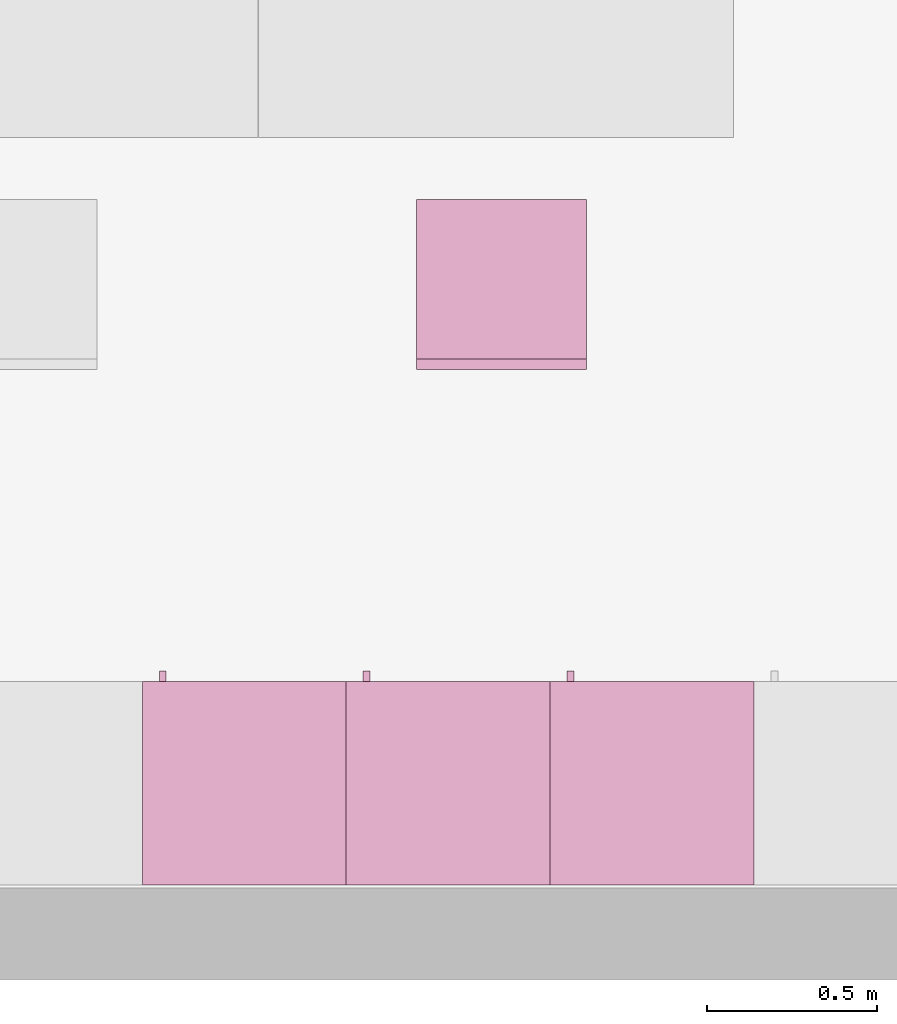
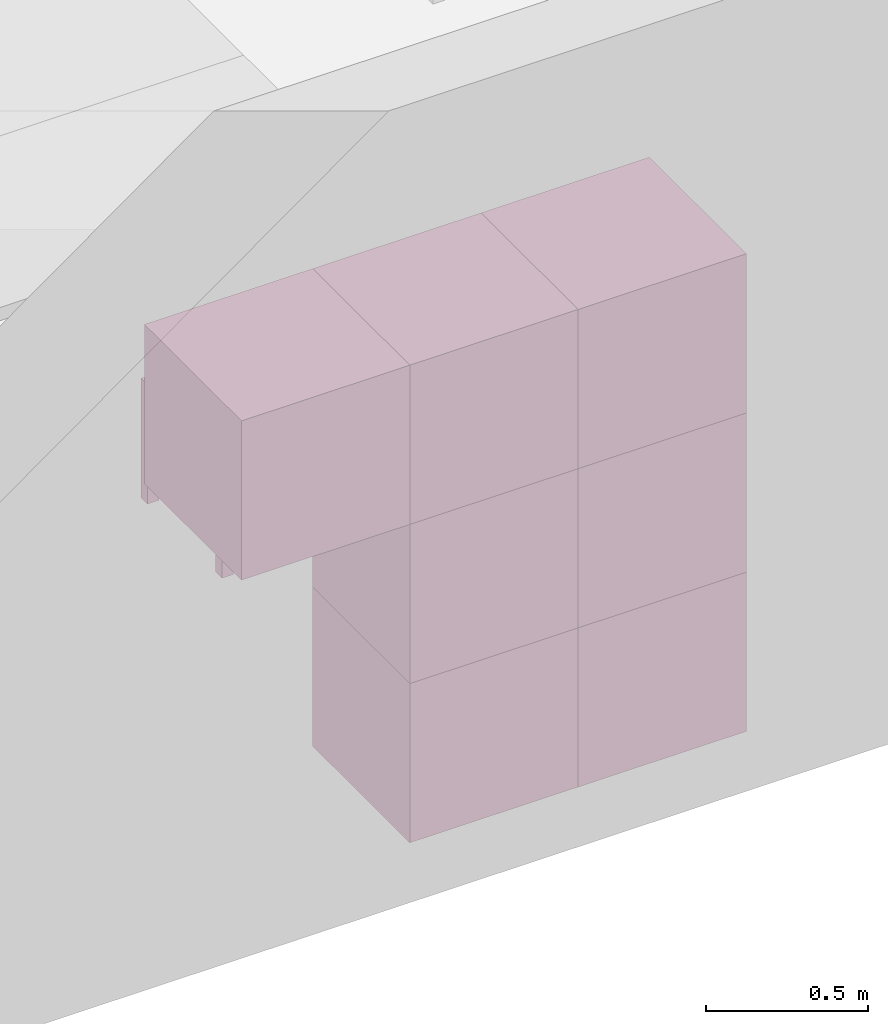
"""IFC4 building model written with IfcOpenShell, lengths in metres."""

import ifcopenshell
import ifcopenshell.guid

model = None  # the IFC model being written
_history = None  # IfcOwnerHistory: only IFC2X3 demands one
_inside = {}  # id of a spatial element -> (the spatial element, [elements in it])
_under = {}  # id of a project, library or spatial element -> (it, [spatial elements below it])
_declared = {}  # id of a project -> (the project, [libraries it declares])
_typed = {}  # id of a type object -> (the type object, [elements of that type])
_made_of = {}  # id of a material, layer set ... -> (it, [elements and type objects made of it])


def new_model(schema):
    """Start an empty IFC model of exactly this schema.

    Asked for "IFC4X3", IfcOpenShell would pick the latest addendum, in which some entities
    have other attributes; the version numbers below select the first issue.
    IFC2X3 requires an IfcOwnerHistory on every rooted entity: one is made here for all.
    """
    global model, _history
    if schema == "IFC4X3":
        model = ifcopenshell.file(schema_version=(4, 3, 0, 0))
    else:
        model = ifcopenshell.file(schema=schema)
    _inside.clear()
    _under.clear()
    _declared.clear()
    _typed.clear()
    _made_of.clear()
    _history = None
    if model.schema == "IFC2X3":
        org = make("IfcOrganization", Name="unknown")
        user = make(
            "IfcPersonAndOrganization",
            ThePerson=make("IfcPerson", FamilyName="unknown"),
            TheOrganization=org,
        )
        app = make(
            "IfcApplication",
            ApplicationDeveloper=org,
            Version="unknown",
            ApplicationFullName="unknown",
            ApplicationIdentifier="unknown",
        )
        _history = make(
            "IfcOwnerHistory",
            OwningUser=user,
            OwningApplication=app,
            ChangeAction="ADDED",
            CreationDate=0,
        )
    return model


def make(cls, **values):
    """One entity of the class cls with the attributes given. An attribute that is None is left unset."""
    return model.create_entity(
        cls, **{name: value for name, value in values.items() if value is not None}
    )


def entity(cls, *values):
    """Any entity or typed value of the class cls, its attributes in the order of the schema. None: left unset."""
    e = model.create_entity(cls)
    for i, value in enumerate(values):
        if value is not None:
            e[i] = value
    return e


def rooted(cls, **values):
    """An entity with a GlobalId (a new one), such as an element, a storey or a relation."""
    return make(cls, GlobalId=ifcopenshell.guid.new(), OwnerHistory=_history, **values)


def si_unit(unit_type, name, prefix=None):
    """IfcSIUnit, for example si_unit("LENGTHUNIT", "METRE", prefix="MILLI")."""
    return make("IfcSIUnit", UnitType=unit_type, Prefix=prefix, Name=name)


def converted_unit(unit_type, name, factor, base, dimensions=None, offset=None):
    """IfcConversionBasedUnit, such as the inch: factor (a typed value) times the base unit."""
    return make(
        "IfcConversionBasedUnit"
        if offset is None
        else "IfcConversionBasedUnitWithOffset",
        ConversionOffset=offset,
        Dimensions=None
        if dimensions is None
        else entity("IfcDimensionalExponents", *dimensions),
        UnitType=unit_type,
        Name=name,
        ConversionFactor=make(
            "IfcMeasureWithUnit", ValueComponent=factor, UnitComponent=base
        ),
    )


def derived_unit(unit_type, elements):
    """IfcDerivedUnit: a product of units, each with its exponent."""
    return make(
        "IfcDerivedUnit",
        Elements=[
            make("IfcDerivedUnitElement", Unit=unit, Exponent=power)
            for unit, power in elements
        ],
        UnitType=unit_type,
    )


def assignment(units):
    """IfcUnitAssignment: the units of a project."""
    return None if units is None else make("IfcUnitAssignment", Units=units)


def point(xyz):
    """IfcCartesianPoint."""
    return None if xyz is None else make("IfcCartesianPoint", Coordinates=xyz)


def direction(xyz):
    """IfcDirection."""
    return None if xyz is None else make("IfcDirection", DirectionRatios=xyz)


def frame(location, z_axis=None, x_axis=None):
    """IfcAxis2Placement3D, a coordinate frame: its origin and axes. An axis left out is left unset."""
    return make(
        "IfcAxis2Placement3D",
        Location=point(location),
        Axis=direction(z_axis),
        RefDirection=direction(x_axis),
    )


def origin():
    """The frame at (0, 0, 0) with its axes left unset."""
    return frame((0.0, 0.0, 0.0))


def place(relative_to, where):
    """IfcLocalPlacement: puts the frame where relative to a parent placement (None: the world)."""
    return make(
        "IfcLocalPlacement", PlacementRelTo=relative_to, RelativePlacement=where
    )


def context(
    kind, dimensions, precision=None, world=None, true_north=None, identifier=None
):
    """IfcGeometricRepresentationContext, for example the 3D "Model" context."""
    return make(
        "IfcGeometricRepresentationContext",
        ContextIdentifier=identifier,
        ContextType=kind,
        CoordinateSpaceDimension=dimensions,
        Precision=precision,
        WorldCoordinateSystem=world,
        TrueNorth=true_north,
    )


def subcontext(parent, identifier, kind, view, scale=None):
    """IfcGeometricRepresentationSubContext, for example "Body" below "Model"."""
    return make(
        "IfcGeometricRepresentationSubContext",
        ContextIdentifier=identifier,
        ContextType=kind,
        ParentContext=parent,
        TargetScale=scale,
        TargetView=view,
    )


def project(units=None, contexts=None):
    """IfcProject with its units and contexts."""
    return rooted(
        "IfcProject",
        Name="project",
        RepresentationContexts=contexts,
        UnitsInContext=assignment(units),
    )


def spatial(cls, under=None, at=None, **own):
    """A site, building, storey or space (cls), placed at a placement, below another one or the project."""
    s = rooted(cls, ObjectPlacement=at, **own)
    if under is not None:
        _under.setdefault(under.id(), (under, []))[1].append(s)
    return s


def faces_of(points, faces, orient=None, outer=None):
    """IfcFace entities. A face is a list of loops; a loop is a list of indices into points, from 0.

    orient and outer hold one flag for each loop. By default every Orientation is true, the
    first loop of a face is its IfcFaceOuterBound and the others are IfcFaceBound.
    """
    made = []
    for i, loops in enumerate(faces):
        bounds = []
        for j, loop in enumerate(loops):
            is_outer = j == 0 if outer is None else outer[i][j]
            bounds.append(
                make(
                    "IfcFaceOuterBound" if is_outer else "IfcFaceBound",
                    Bound=make("IfcPolyLoop", Polygon=[points[k] for k in loop]),
                    Orientation=True if orient is None else orient[i][j],
                )
            )
        made.append(make("IfcFace", Bounds=bounds))
    return made


def faceted_brep(points, faces, orient=None, outer=None, voids=None):
    """IfcFacetedBrep: a solid bounded by flat faces; with voids (closed shells), ...WithVoids."""
    shared = [point(p) for p in points]
    hull = make("IfcClosedShell", CfsFaces=faces_of(shared, faces, orient, outer))
    if voids is None:
        return make("IfcFacetedBrep", Outer=hull)
    return make(
        "IfcFacetedBrepWithVoids",
        Outer=hull,
        Voids=[
            make(cls, CfsFaces=faces_of(shared, fs, o, b)) for cls, fs, o, b in voids
        ],
    )


def shape(context_of_items, identifier, shape_type, items):
    """IfcShapeRepresentation: the items that make up one representation, for example the "Body"."""
    return make(
        "IfcShapeRepresentation",
        ContextOfItems=context_of_items,
        RepresentationIdentifier=identifier,
        RepresentationType=shape_type,
        Items=items,
    )


def made_of(thing, what):
    """Note that an element or type object is made of a material, layer set ...; save() writes the relation."""
    if what is not None:
        _made_of.setdefault(what.id(), (what, []))[1].append(thing)
    return thing


def element(
    cls,
    number,
    at=None,
    inside=None,
    cuts=None,
    type_object=None,
    material=None,
    context=None,
    identifier="Body",
    shape_type=None,
    held_by="IfcProductDefinitionShape",
    body=None,
    shapes=None,
    **own,
):
    """One element of the class cls, such as IfcWall. Its Tag is "e" and its number.

    at: its placement. inside: the storey or other place that contains it. cuts: it is an
    opening in that element (IfcRelVoidsElement). A single representation is given by context,
    identifier, shape_type and body (its items); several are given by shapes. held_by: the class
    of the entity that holds the representations. save() writes the other relations.
    """
    e = rooted(cls, Tag="e%d" % number, ObjectPlacement=at, **own)
    if body is not None:
        shapes = [shape(context, identifier, shape_type, body)]
    if shapes is not None:
        e.Representation = make(held_by, Representations=shapes)
    if inside is not None:
        _inside.setdefault(inside.id(), (inside, []))[1].append(e)
    if cuts is not None:
        rooted(
            "IfcRelVoidsElement", RelatingBuildingElement=cuts, RelatedOpeningElement=e
        )
    if type_object is not None:
        _typed.setdefault(type_object.id(), (type_object, []))[1].append(e)
    return made_of(e, material)


def aggregate(whole, parts):
    """IfcRelAggregates: a whole, such as a stair, and the parts it consists of."""
    return rooted("IfcRelAggregates", RelatingObject=whole, RelatedObjects=parts)


def save(model, path):
    """Write the relations noted so far, then the file.

    IfcRelAggregates (storeys below a building ...), IfcRelContainedInSpatialStructure (elements
    in a storey), IfcRelDefinesByType, IfcRelAssociatesMaterial and IfcRelDeclares: one each for
    every whole, place, type object, material and project.
    """
    for whole, parts in _under.values():
        aggregate(whole, parts)
    for where, things in _inside.values():
        rooted(
            "IfcRelContainedInSpatialStructure",
            RelatedElements=things,
            RelatingStructure=where,
        )
    for kind, things in _typed.values():
        rooted("IfcRelDefinesByType", RelatedObjects=things, RelatingType=kind)
    for what, things in _made_of.values():
        rooted("IfcRelAssociatesMaterial", RelatedObjects=things, RelatingMaterial=what)
    for by, libraries in _declared.values():
        rooted("IfcRelDeclares", RelatingContext=by, RelatedDefinitions=libraries)
    model.write(path)


model = new_model("IFC4")

# Units and contexts
model_context = context("Model", 3, precision=1e-05, world=origin())
body_context = subcontext(model_context, "Body", "Model", "MODEL_VIEW")
ifc_project = project(units=[si_unit("LENGTHUNIT", "METRE"), si_unit("AREAUNIT", "SQUARE_METRE"), si_unit("VOLUMEUNIT", "CUBIC_METRE"), si_unit("MASSUNIT", "GRAM", prefix="KILO"), converted_unit("PLANEANGLEUNIT", "DEGREE", entity("IfcPlaneAngleMeasure", 0.0174532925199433), si_unit("PLANEANGLEUNIT", "RADIAN"), dimensions=[0, 0, 0, 0, 0, 0, 0]), derived_unit("THERMALTRANSMITTANCEUNIT", [(si_unit("POWERUNIT", "WATT"), 1), (si_unit("THERMODYNAMICTEMPERATUREUNIT", "KELVIN"), -1), (si_unit("LENGTHUNIT", "METRE"), -2)]), derived_unit("VOLUMETRICFLOWRATEUNIT", [(si_unit("LENGTHUNIT", "METRE"), 3), (converted_unit("TIMEUNIT", "hour", entity("IfcTimeMeasure", 3600.0), si_unit("TIMEUNIT", "SECOND"), dimensions=[0, 0, 1, 0, 0, 0, 0]), -1), (si_unit("LENGTHUNIT", "METRE"), -1)])], contexts=[model_context])

# Building, storeys
building_placement = place(None, origin())
building = spatial("IfcBuilding", under=ifc_project, at=building_placement, Name="HABITATGE PLURIFAMILIAR", CompositionType="ELEMENT")
storey_1_placement = place(building_placement, frame((0.0, 0.0, 15.28)))
storey_1 = spatial("IfcBuildingStorey", under=building, at=storey_1_placement, Name="PLANTA QUARTA", CompositionType="ELEMENT", Elevation=15.28)
storey_2_placement = place(storey_1_placement, frame((0.0, 0.0, 12.27)))
storey_2 = spatial("IfcBuildingStorey", under=storey_1, at=storey_2_placement, Name="NOU", CompositionType="PARTIAL")

# Furniture
furniture_1_placement = place(storey_2_placement, frame((404.39527037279, 13.1194598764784, -12.37)))
element("IfcFurniture", 1, at=furniture_1_placement, inside=storey_2, Name="Armai 60x60x60_P4", context=body_context, shape_type="Brep", body=[
    faceted_brep([(0.0, 0.6, 0.02), (0.0, 0.6, 0.0), (0.6, 0.6, 0.0), (0.6, 0.6, 0.02), (0.6, 0.0, 0.0), (0.6, 0.0, 0.02), (0.0, 0.0, 0.0), (0.0, 0.0, 0.02)], [[[0, 1, 2, 3]], [[3, 2, 4, 5]], [[5, 4, 6, 7]], [[7, 6, 1, 0]], [[0, 3, 5, 7]], [[1, 6, 4, 2]]], orient=[[False], [False], [False], [False], [False], [False]]),
    faceted_brep([(0.580000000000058, 0.0, 0.58), (0.580000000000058, 0.0200000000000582, 0.58), (0.580000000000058, 0.0200000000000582, 0.02), (0.580000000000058, 0.0, 0.02), (0.0200000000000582, 0.0200000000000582, 0.02), (0.0200000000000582, 0.0, 0.02), (0.0200000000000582, 0.0200000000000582, 0.58), (0.0200000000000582, 0.0, 0.58)], [[[0, 1, 2, 3]], [[3, 2, 4, 5]], [[5, 4, 6, 7]], [[7, 6, 1, 0]], [[0, 3, 5, 7]], [[1, 6, 4, 2]]], orient=[[False], [False], [False], [False], [False], [False]]),
    faceted_brep([(0.0200000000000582, 0.6, 0.58), (0.0, 0.6, 0.58), (0.0, 0.6, 0.02), (0.0200000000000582, 0.6, 0.02), (0.0, 0.0, 0.02), (0.0200000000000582, 0.0, 0.02), (0.0, 0.0, 0.58), (0.0200000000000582, 0.0, 0.58)], [[[0, 1, 2, 3]], [[3, 2, 4, 5]], [[5, 4, 6, 7]], [[7, 6, 1, 0]], [[0, 3, 5, 7]], [[1, 6, 4, 2]]], orient=[[False], [False], [False], [False], [False], [False]]),
    faceted_brep([(0.0, 0.58, 0.58), (0.0, 0.6, 0.58), (0.0, 0.6, 0.02), (0.0, 0.58, 0.02), (0.02, 0.6, 0.02), (0.02, 0.58, 0.02), (0.02, 0.6, 0.58), (0.02, 0.58, 0.58)], [[[0, 1, 2, 3]], [[3, 2, 4, 5]], [[5, 4, 6, 7]], [[7, 6, 1, 0]], [[0, 3, 5, 7]], [[1, 6, 4, 2]]], orient=[[False], [False], [False], [False], [False], [False]]),
    faceted_brep([(0.6, 0.6, 0.58), (0.58, 0.6, 0.58), (0.58, 0.6, 0.02), (0.6, 0.6, 0.02), (0.58, 0.0, 0.02), (0.6, 0.0, 0.02), (0.58, 0.0, 0.58), (0.6, 0.0, 0.58)], [[[0, 1, 2, 3]], [[3, 2, 4, 5]], [[5, 4, 6, 7]], [[7, 6, 1, 0]], [[0, 3, 5, 7]], [[1, 6, 4, 2]]], orient=[[False], [False], [False], [False], [False], [False]]),
    faceted_brep([(0.0, 0.600000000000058, 0.6), (0.0, 0.600000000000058, 0.58), (0.600000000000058, 0.600000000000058, 0.58), (0.600000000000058, 0.600000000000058, 0.6), (0.600000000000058, 0.0, 0.58), (0.600000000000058, 0.0, 0.6), (0.0, 0.0, 0.58), (0.0, 0.0, 0.6)], [[[0, 1, 2, 3]], [[3, 2, 4, 5]], [[5, 4, 6, 7]], [[7, 6, 1, 0]], [[0, 3, 5, 7]], [[1, 6, 4, 2]]], orient=[[False], [False], [False], [False], [False], [False]]),
    faceted_brep([(0.580000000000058, 0.580000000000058, 0.58), (0.580000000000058, 0.600000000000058, 0.58), (0.580000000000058, 0.600000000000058, 0.02), (0.580000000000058, 0.580000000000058, 0.02), (0.02, 0.600000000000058, 0.02), (0.02, 0.580000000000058, 0.02), (0.02, 0.600000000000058, 0.58), (0.02, 0.580000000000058, 0.58)], [[[0, 1, 2, 3]], [[3, 2, 4, 5]], [[5, 4, 6, 7]], [[7, 6, 1, 0]], [[0, 3, 5, 7]], [[1, 6, 4, 2]]], orient=[[False], [False], [False], [False], [False], [False]]),
    faceted_brep([(0.0700000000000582, 0.600000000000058, 0.358064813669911), (0.0700000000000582, 0.630000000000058, 0.358064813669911), (0.0700000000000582, 0.630000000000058, 0.258064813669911), (0.0700000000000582, 0.600000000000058, 0.258064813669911), (0.0500000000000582, 0.630000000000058, 0.258064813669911), (0.0500000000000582, 0.600000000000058, 0.258064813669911), (0.0500000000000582, 0.630000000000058, 0.358064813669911), (0.0500000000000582, 0.600000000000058, 0.358064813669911)], [[[0, 1, 2, 3]], [[3, 2, 4, 5]], [[5, 4, 6, 7]], [[7, 6, 1, 0]], [[0, 3, 5, 7]], [[1, 6, 4, 2]]], orient=[[False], [False], [False], [False], [False], [False]]),
])
furniture_2_placement = place(storey_2_placement, frame((403.79527037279, 13.1194598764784, -11.77)))
element("IfcFurniture", 2, at=furniture_2_placement, inside=storey_2, Name="Armai 60x60x60_P4", context=body_context, shape_type="Brep", body=[
    faceted_brep([(0.0, 0.6, 0.02), (0.0, 0.6, 0.0), (0.6, 0.6, 0.0), (0.6, 0.6, 0.02), (0.6, 0.0, 0.0), (0.6, 0.0, 0.02), (0.0, 0.0, 0.0), (0.0, 0.0, 0.02)], [[[0, 1, 2, 3]], [[3, 2, 4, 5]], [[5, 4, 6, 7]], [[7, 6, 1, 0]], [[0, 3, 5, 7]], [[1, 6, 4, 2]]], orient=[[False], [False], [False], [False], [False], [False]]),
    faceted_brep([(0.580000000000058, 0.0, 0.58), (0.580000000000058, 0.0200000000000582, 0.58), (0.580000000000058, 0.0200000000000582, 0.02), (0.580000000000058, 0.0, 0.02), (0.0200000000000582, 0.0200000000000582, 0.02), (0.0200000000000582, 0.0, 0.02), (0.0200000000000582, 0.0200000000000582, 0.58), (0.0200000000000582, 0.0, 0.58)], [[[0, 1, 2, 3]], [[3, 2, 4, 5]], [[5, 4, 6, 7]], [[7, 6, 1, 0]], [[0, 3, 5, 7]], [[1, 6, 4, 2]]], orient=[[False], [False], [False], [False], [False], [False]]),
    faceted_brep([(0.0200000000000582, 0.6, 0.58), (0.0, 0.6, 0.58), (0.0, 0.6, 0.02), (0.0200000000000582, 0.6, 0.02), (0.0, 0.0, 0.02), (0.0200000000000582, 0.0, 0.02), (0.0, 0.0, 0.58), (0.0200000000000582, 0.0, 0.58)], [[[0, 1, 2, 3]], [[3, 2, 4, 5]], [[5, 4, 6, 7]], [[7, 6, 1, 0]], [[0, 3, 5, 7]], [[1, 6, 4, 2]]], orient=[[False], [False], [False], [False], [False], [False]]),
    faceted_brep([(0.0, 0.58, 0.58), (0.0, 0.6, 0.58), (0.0, 0.6, 0.02), (0.0, 0.58, 0.02), (0.02, 0.6, 0.02), (0.02, 0.58, 0.02), (0.02, 0.6, 0.58), (0.02, 0.58, 0.58)], [[[0, 1, 2, 3]], [[3, 2, 4, 5]], [[5, 4, 6, 7]], [[7, 6, 1, 0]], [[0, 3, 5, 7]], [[1, 6, 4, 2]]], orient=[[False], [False], [False], [False], [False], [False]]),
    faceted_brep([(0.6, 0.6, 0.58), (0.58, 0.6, 0.58), (0.58, 0.6, 0.02), (0.6, 0.6, 0.02), (0.58, 0.0, 0.02), (0.6, 0.0, 0.02), (0.58, 0.0, 0.58), (0.6, 0.0, 0.58)], [[[0, 1, 2, 3]], [[3, 2, 4, 5]], [[5, 4, 6, 7]], [[7, 6, 1, 0]], [[0, 3, 5, 7]], [[1, 6, 4, 2]]], orient=[[False], [False], [False], [False], [False], [False]]),
    faceted_brep([(0.0, 0.600000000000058, 0.6), (0.0, 0.600000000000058, 0.58), (0.600000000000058, 0.600000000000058, 0.58), (0.600000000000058, 0.600000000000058, 0.6), (0.600000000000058, 0.0, 0.58), (0.600000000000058, 0.0, 0.6), (0.0, 0.0, 0.58), (0.0, 0.0, 0.6)], [[[0, 1, 2, 3]], [[3, 2, 4, 5]], [[5, 4, 6, 7]], [[7, 6, 1, 0]], [[0, 3, 5, 7]], [[1, 6, 4, 2]]], orient=[[False], [False], [False], [False], [False], [False]]),
    faceted_brep([(0.580000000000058, 0.580000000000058, 0.58), (0.580000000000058, 0.600000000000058, 0.58), (0.580000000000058, 0.600000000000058, 0.02), (0.580000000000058, 0.580000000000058, 0.02), (0.02, 0.600000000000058, 0.02), (0.02, 0.580000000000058, 0.02), (0.02, 0.600000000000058, 0.58), (0.02, 0.580000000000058, 0.58)], [[[0, 1, 2, 3]], [[3, 2, 4, 5]], [[5, 4, 6, 7]], [[7, 6, 1, 0]], [[0, 3, 5, 7]], [[1, 6, 4, 2]]], orient=[[False], [False], [False], [False], [False], [False]]),
    faceted_brep([(0.0700000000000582, 0.600000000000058, 0.358064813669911), (0.0700000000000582, 0.630000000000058, 0.358064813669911), (0.0700000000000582, 0.630000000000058, 0.258064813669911), (0.0700000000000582, 0.600000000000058, 0.258064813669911), (0.0500000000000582, 0.630000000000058, 0.258064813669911), (0.0500000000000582, 0.600000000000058, 0.258064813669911), (0.0500000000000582, 0.630000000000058, 0.358064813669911), (0.0500000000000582, 0.600000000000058, 0.358064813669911)], [[[0, 1, 2, 3]], [[3, 2, 4, 5]], [[5, 4, 6, 7]], [[7, 6, 1, 0]], [[0, 3, 5, 7]], [[1, 6, 4, 2]]], orient=[[False], [False], [False], [False], [False], [False]]),
])
furniture_3_placement = place(storey_2_placement, frame((404.39527037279, 13.1194598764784, -11.77)))
element("IfcFurniture", 3, at=furniture_3_placement, inside=storey_2, Name="Armai 60x60x60_P4", context=body_context, shape_type="Brep", body=[
    faceted_brep([(0.0, 0.6, 0.02), (0.0, 0.6, 0.0), (0.6, 0.6, 0.0), (0.6, 0.6, 0.02), (0.6, 0.0, 0.0), (0.6, 0.0, 0.02), (0.0, 0.0, 0.0), (0.0, 0.0, 0.02)], [[[0, 1, 2, 3]], [[3, 2, 4, 5]], [[5, 4, 6, 7]], [[7, 6, 1, 0]], [[0, 3, 5, 7]], [[1, 6, 4, 2]]], orient=[[False], [False], [False], [False], [False], [False]]),
    faceted_brep([(0.580000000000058, 0.0, 0.58), (0.580000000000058, 0.0200000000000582, 0.58), (0.580000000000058, 0.0200000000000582, 0.02), (0.580000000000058, 0.0, 0.02), (0.0200000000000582, 0.0200000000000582, 0.02), (0.0200000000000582, 0.0, 0.02), (0.0200000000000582, 0.0200000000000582, 0.58), (0.0200000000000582, 0.0, 0.58)], [[[0, 1, 2, 3]], [[3, 2, 4, 5]], [[5, 4, 6, 7]], [[7, 6, 1, 0]], [[0, 3, 5, 7]], [[1, 6, 4, 2]]], orient=[[False], [False], [False], [False], [False], [False]]),
    faceted_brep([(0.0200000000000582, 0.6, 0.58), (0.0, 0.6, 0.58), (0.0, 0.6, 0.02), (0.0200000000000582, 0.6, 0.02), (0.0, 0.0, 0.02), (0.0200000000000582, 0.0, 0.02), (0.0, 0.0, 0.58), (0.0200000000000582, 0.0, 0.58)], [[[0, 1, 2, 3]], [[3, 2, 4, 5]], [[5, 4, 6, 7]], [[7, 6, 1, 0]], [[0, 3, 5, 7]], [[1, 6, 4, 2]]], orient=[[False], [False], [False], [False], [False], [False]]),
    faceted_brep([(0.0, 0.58, 0.58), (0.0, 0.6, 0.58), (0.0, 0.6, 0.02), (0.0, 0.58, 0.02), (0.02, 0.6, 0.02), (0.02, 0.58, 0.02), (0.02, 0.6, 0.58), (0.02, 0.58, 0.58)], [[[0, 1, 2, 3]], [[3, 2, 4, 5]], [[5, 4, 6, 7]], [[7, 6, 1, 0]], [[0, 3, 5, 7]], [[1, 6, 4, 2]]], orient=[[False], [False], [False], [False], [False], [False]]),
    faceted_brep([(0.6, 0.6, 0.58), (0.58, 0.6, 0.58), (0.58, 0.6, 0.02), (0.6, 0.6, 0.02), (0.58, 0.0, 0.02), (0.6, 0.0, 0.02), (0.58, 0.0, 0.58), (0.6, 0.0, 0.58)], [[[0, 1, 2, 3]], [[3, 2, 4, 5]], [[5, 4, 6, 7]], [[7, 6, 1, 0]], [[0, 3, 5, 7]], [[1, 6, 4, 2]]], orient=[[False], [False], [False], [False], [False], [False]]),
    faceted_brep([(0.0, 0.600000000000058, 0.6), (0.0, 0.600000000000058, 0.58), (0.600000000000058, 0.600000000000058, 0.58), (0.600000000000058, 0.600000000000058, 0.6), (0.600000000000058, 0.0, 0.58), (0.600000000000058, 0.0, 0.6), (0.0, 0.0, 0.58), (0.0, 0.0, 0.6)], [[[0, 1, 2, 3]], [[3, 2, 4, 5]], [[5, 4, 6, 7]], [[7, 6, 1, 0]], [[0, 3, 5, 7]], [[1, 6, 4, 2]]], orient=[[False], [False], [False], [False], [False], [False]]),
    faceted_brep([(0.580000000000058, 0.580000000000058, 0.58), (0.580000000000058, 0.600000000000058, 0.58), (0.580000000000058, 0.600000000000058, 0.02), (0.580000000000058, 0.580000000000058, 0.02), (0.02, 0.600000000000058, 0.02), (0.02, 0.580000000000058, 0.02), (0.02, 0.600000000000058, 0.58), (0.02, 0.580000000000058, 0.58)], [[[0, 1, 2, 3]], [[3, 2, 4, 5]], [[5, 4, 6, 7]], [[7, 6, 1, 0]], [[0, 3, 5, 7]], [[1, 6, 4, 2]]], orient=[[False], [False], [False], [False], [False], [False]]),
    faceted_brep([(0.0700000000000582, 0.600000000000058, 0.358064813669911), (0.0700000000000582, 0.630000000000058, 0.358064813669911), (0.0700000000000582, 0.630000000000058, 0.258064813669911), (0.0700000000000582, 0.600000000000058, 0.258064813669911), (0.0500000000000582, 0.630000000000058, 0.258064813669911), (0.0500000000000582, 0.600000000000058, 0.258064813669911), (0.0500000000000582, 0.630000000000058, 0.358064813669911), (0.0500000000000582, 0.600000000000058, 0.358064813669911)], [[[0, 1, 2, 3]], [[3, 2, 4, 5]], [[5, 4, 6, 7]], [[7, 6, 1, 0]], [[0, 3, 5, 7]], [[1, 6, 4, 2]]], orient=[[False], [False], [False], [False], [False], [False]]),
])
furniture_4_placement = place(storey_2_placement, frame((403.79527037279, 13.1194598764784, -11.17)))
element("IfcFurniture", 4, at=furniture_4_placement, inside=storey_2, Name="Armai 60x60x60_P4", context=body_context, shape_type="Brep", body=[
    faceted_brep([(0.0, 0.6, 0.02), (0.0, 0.6, 0.0), (0.6, 0.6, 0.0), (0.6, 0.6, 0.02), (0.6, 0.0, 0.0), (0.6, 0.0, 0.02), (0.0, 0.0, 0.0), (0.0, 0.0, 0.02)], [[[0, 1, 2, 3]], [[3, 2, 4, 5]], [[5, 4, 6, 7]], [[7, 6, 1, 0]], [[0, 3, 5, 7]], [[1, 6, 4, 2]]], orient=[[False], [False], [False], [False], [False], [False]]),
    faceted_brep([(0.580000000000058, 0.0, 0.58), (0.580000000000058, 0.0200000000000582, 0.58), (0.580000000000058, 0.0200000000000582, 0.02), (0.580000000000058, 0.0, 0.02), (0.0200000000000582, 0.0200000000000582, 0.02), (0.0200000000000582, 0.0, 0.02), (0.0200000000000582, 0.0200000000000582, 0.58), (0.0200000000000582, 0.0, 0.58)], [[[0, 1, 2, 3]], [[3, 2, 4, 5]], [[5, 4, 6, 7]], [[7, 6, 1, 0]], [[0, 3, 5, 7]], [[1, 6, 4, 2]]], orient=[[False], [False], [False], [False], [False], [False]]),
    faceted_brep([(0.0200000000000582, 0.6, 0.58), (0.0, 0.6, 0.58), (0.0, 0.6, 0.02), (0.0200000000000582, 0.6, 0.02), (0.0, 0.0, 0.02), (0.0200000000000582, 0.0, 0.02), (0.0, 0.0, 0.58), (0.0200000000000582, 0.0, 0.58)], [[[0, 1, 2, 3]], [[3, 2, 4, 5]], [[5, 4, 6, 7]], [[7, 6, 1, 0]], [[0, 3, 5, 7]], [[1, 6, 4, 2]]], orient=[[False], [False], [False], [False], [False], [False]]),
    faceted_brep([(0.0, 0.58, 0.58), (0.0, 0.6, 0.58), (0.0, 0.6, 0.02), (0.0, 0.58, 0.02), (0.02, 0.6, 0.02), (0.02, 0.58, 0.02), (0.02, 0.6, 0.58), (0.02, 0.58, 0.58)], [[[0, 1, 2, 3]], [[3, 2, 4, 5]], [[5, 4, 6, 7]], [[7, 6, 1, 0]], [[0, 3, 5, 7]], [[1, 6, 4, 2]]], orient=[[False], [False], [False], [False], [False], [False]]),
    faceted_brep([(0.6, 0.6, 0.58), (0.58, 0.6, 0.58), (0.58, 0.6, 0.02), (0.6, 0.6, 0.02), (0.58, 0.0, 0.02), (0.6, 0.0, 0.02), (0.58, 0.0, 0.58), (0.6, 0.0, 0.58)], [[[0, 1, 2, 3]], [[3, 2, 4, 5]], [[5, 4, 6, 7]], [[7, 6, 1, 0]], [[0, 3, 5, 7]], [[1, 6, 4, 2]]], orient=[[False], [False], [False], [False], [False], [False]]),
    faceted_brep([(0.0, 0.600000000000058, 0.6), (0.0, 0.600000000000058, 0.58), (0.600000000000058, 0.600000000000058, 0.58), (0.600000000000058, 0.600000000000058, 0.6), (0.600000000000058, 0.0, 0.58), (0.600000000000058, 0.0, 0.6), (0.0, 0.0, 0.58), (0.0, 0.0, 0.6)], [[[0, 1, 2, 3]], [[3, 2, 4, 5]], [[5, 4, 6, 7]], [[7, 6, 1, 0]], [[0, 3, 5, 7]], [[1, 6, 4, 2]]], orient=[[False], [False], [False], [False], [False], [False]]),
    faceted_brep([(0.580000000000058, 0.580000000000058, 0.58), (0.580000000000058, 0.600000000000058, 0.58), (0.580000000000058, 0.600000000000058, 0.02), (0.580000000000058, 0.580000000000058, 0.02), (0.02, 0.600000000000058, 0.02), (0.02, 0.580000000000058, 0.02), (0.02, 0.600000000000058, 0.58), (0.02, 0.580000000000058, 0.58)], [[[0, 1, 2, 3]], [[3, 2, 4, 5]], [[5, 4, 6, 7]], [[7, 6, 1, 0]], [[0, 3, 5, 7]], [[1, 6, 4, 2]]], orient=[[False], [False], [False], [False], [False], [False]]),
    faceted_brep([(0.0700000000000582, 0.600000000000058, 0.358064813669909), (0.0700000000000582, 0.630000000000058, 0.358064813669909), (0.0700000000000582, 0.630000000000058, 0.258064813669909), (0.0700000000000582, 0.600000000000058, 0.258064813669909), (0.0500000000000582, 0.630000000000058, 0.258064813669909), (0.0500000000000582, 0.600000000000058, 0.258064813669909), (0.0500000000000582, 0.630000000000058, 0.358064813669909), (0.0500000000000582, 0.600000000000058, 0.358064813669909)], [[[0, 1, 2, 3]], [[3, 2, 4, 5]], [[5, 4, 6, 7]], [[7, 6, 1, 0]], [[0, 3, 5, 7]], [[1, 6, 4, 2]]], orient=[[False], [False], [False], [False], [False], [False]]),
])
furniture_5_placement = place(storey_2_placement, frame((404.39527037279, 13.1194598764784, -11.17)))
element("IfcFurniture", 5, at=furniture_5_placement, inside=storey_2, Name="Armai 60x60x60_P4", context=body_context, shape_type="Brep", body=[
    faceted_brep([(0.0, 0.6, 0.02), (0.0, 0.6, 0.0), (0.6, 0.6, 0.0), (0.6, 0.6, 0.02), (0.6, 0.0, 0.0), (0.6, 0.0, 0.02), (0.0, 0.0, 0.0), (0.0, 0.0, 0.02)], [[[0, 1, 2, 3]], [[3, 2, 4, 5]], [[5, 4, 6, 7]], [[7, 6, 1, 0]], [[0, 3, 5, 7]], [[1, 6, 4, 2]]], orient=[[False], [False], [False], [False], [False], [False]]),
    faceted_brep([(0.580000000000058, 0.0, 0.58), (0.580000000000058, 0.0200000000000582, 0.58), (0.580000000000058, 0.0200000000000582, 0.02), (0.580000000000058, 0.0, 0.02), (0.0200000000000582, 0.0200000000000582, 0.02), (0.0200000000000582, 0.0, 0.02), (0.0200000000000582, 0.0200000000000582, 0.58), (0.0200000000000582, 0.0, 0.58)], [[[0, 1, 2, 3]], [[3, 2, 4, 5]], [[5, 4, 6, 7]], [[7, 6, 1, 0]], [[0, 3, 5, 7]], [[1, 6, 4, 2]]], orient=[[False], [False], [False], [False], [False], [False]]),
    faceted_brep([(0.0200000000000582, 0.6, 0.58), (0.0, 0.6, 0.58), (0.0, 0.6, 0.02), (0.0200000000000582, 0.6, 0.02), (0.0, 0.0, 0.02), (0.0200000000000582, 0.0, 0.02), (0.0, 0.0, 0.58), (0.0200000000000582, 0.0, 0.58)], [[[0, 1, 2, 3]], [[3, 2, 4, 5]], [[5, 4, 6, 7]], [[7, 6, 1, 0]], [[0, 3, 5, 7]], [[1, 6, 4, 2]]], orient=[[False], [False], [False], [False], [False], [False]]),
    faceted_brep([(0.0, 0.58, 0.58), (0.0, 0.6, 0.58), (0.0, 0.6, 0.02), (0.0, 0.58, 0.02), (0.02, 0.6, 0.02), (0.02, 0.58, 0.02), (0.02, 0.6, 0.58), (0.02, 0.58, 0.58)], [[[0, 1, 2, 3]], [[3, 2, 4, 5]], [[5, 4, 6, 7]], [[7, 6, 1, 0]], [[0, 3, 5, 7]], [[1, 6, 4, 2]]], orient=[[False], [False], [False], [False], [False], [False]]),
    faceted_brep([(0.6, 0.6, 0.58), (0.58, 0.6, 0.58), (0.58, 0.6, 0.02), (0.6, 0.6, 0.02), (0.58, 0.0, 0.02), (0.6, 0.0, 0.02), (0.58, 0.0, 0.58), (0.6, 0.0, 0.58)], [[[0, 1, 2, 3]], [[3, 2, 4, 5]], [[5, 4, 6, 7]], [[7, 6, 1, 0]], [[0, 3, 5, 7]], [[1, 6, 4, 2]]], orient=[[False], [False], [False], [False], [False], [False]]),
    faceted_brep([(0.0, 0.600000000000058, 0.6), (0.0, 0.600000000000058, 0.58), (0.600000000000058, 0.600000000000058, 0.58), (0.600000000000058, 0.600000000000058, 0.6), (0.600000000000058, 0.0, 0.58), (0.600000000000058, 0.0, 0.6), (0.0, 0.0, 0.58), (0.0, 0.0, 0.6)], [[[0, 1, 2, 3]], [[3, 2, 4, 5]], [[5, 4, 6, 7]], [[7, 6, 1, 0]], [[0, 3, 5, 7]], [[1, 6, 4, 2]]], orient=[[False], [False], [False], [False], [False], [False]]),
    faceted_brep([(0.580000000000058, 0.580000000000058, 0.58), (0.580000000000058, 0.600000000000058, 0.58), (0.580000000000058, 0.600000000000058, 0.02), (0.580000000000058, 0.580000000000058, 0.02), (0.02, 0.600000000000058, 0.02), (0.02, 0.580000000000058, 0.02), (0.02, 0.600000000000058, 0.58), (0.02, 0.580000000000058, 0.58)], [[[0, 1, 2, 3]], [[3, 2, 4, 5]], [[5, 4, 6, 7]], [[7, 6, 1, 0]], [[0, 3, 5, 7]], [[1, 6, 4, 2]]], orient=[[False], [False], [False], [False], [False], [False]]),
    faceted_brep([(0.0700000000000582, 0.600000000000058, 0.358064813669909), (0.0700000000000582, 0.630000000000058, 0.358064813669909), (0.0700000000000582, 0.630000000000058, 0.258064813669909), (0.0700000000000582, 0.600000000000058, 0.258064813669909), (0.0500000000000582, 0.630000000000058, 0.258064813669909), (0.0500000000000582, 0.600000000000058, 0.258064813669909), (0.0500000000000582, 0.630000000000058, 0.358064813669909), (0.0500000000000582, 0.600000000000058, 0.358064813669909)], [[[0, 1, 2, 3]], [[3, 2, 4, 5]], [[5, 4, 6, 7]], [[7, 6, 1, 0]], [[0, 3, 5, 7]], [[1, 6, 4, 2]]], orient=[[False], [False], [False], [False], [False], [False]]),
])
furniture_6_placement = place(storey_2_placement, frame((403.79527037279, 13.1194598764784, -12.37)))
element("IfcFurniture", 6, at=furniture_6_placement, inside=storey_2, Name="Armai 60x60x60_P4", context=body_context, shape_type="Brep", body=[
    faceted_brep([(0.0, 0.6, 0.02), (0.0, 0.6, 0.0), (0.6, 0.6, 0.0), (0.6, 0.6, 0.02), (0.6, 0.0, 0.0), (0.6, 0.0, 0.02), (0.0, 0.0, 0.0), (0.0, 0.0, 0.02)], [[[0, 1, 2, 3]], [[3, 2, 4, 5]], [[5, 4, 6, 7]], [[7, 6, 1, 0]], [[0, 3, 5, 7]], [[1, 6, 4, 2]]], orient=[[False], [False], [False], [False], [False], [False]]),
    faceted_brep([(0.580000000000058, 0.0, 0.58), (0.580000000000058, 0.0200000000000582, 0.58), (0.580000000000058, 0.0200000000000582, 0.02), (0.580000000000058, 0.0, 0.02), (0.0200000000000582, 0.0200000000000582, 0.02), (0.0200000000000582, 0.0, 0.02), (0.0200000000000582, 0.0200000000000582, 0.58), (0.0200000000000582, 0.0, 0.58)], [[[0, 1, 2, 3]], [[3, 2, 4, 5]], [[5, 4, 6, 7]], [[7, 6, 1, 0]], [[0, 3, 5, 7]], [[1, 6, 4, 2]]], orient=[[False], [False], [False], [False], [False], [False]]),
    faceted_brep([(0.0200000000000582, 0.6, 0.58), (0.0, 0.6, 0.58), (0.0, 0.6, 0.02), (0.0200000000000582, 0.6, 0.02), (0.0, 0.0, 0.02), (0.0200000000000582, 0.0, 0.02), (0.0, 0.0, 0.58), (0.0200000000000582, 0.0, 0.58)], [[[0, 1, 2, 3]], [[3, 2, 4, 5]], [[5, 4, 6, 7]], [[7, 6, 1, 0]], [[0, 3, 5, 7]], [[1, 6, 4, 2]]], orient=[[False], [False], [False], [False], [False], [False]]),
    faceted_brep([(0.0, 0.58, 0.58), (0.0, 0.6, 0.58), (0.0, 0.6, 0.02), (0.0, 0.58, 0.02), (0.02, 0.6, 0.02), (0.02, 0.58, 0.02), (0.02, 0.6, 0.58), (0.02, 0.58, 0.58)], [[[0, 1, 2, 3]], [[3, 2, 4, 5]], [[5, 4, 6, 7]], [[7, 6, 1, 0]], [[0, 3, 5, 7]], [[1, 6, 4, 2]]], orient=[[False], [False], [False], [False], [False], [False]]),
    faceted_brep([(0.6, 0.6, 0.58), (0.58, 0.6, 0.58), (0.58, 0.6, 0.02), (0.6, 0.6, 0.02), (0.58, 0.0, 0.02), (0.6, 0.0, 0.02), (0.58, 0.0, 0.58), (0.6, 0.0, 0.58)], [[[0, 1, 2, 3]], [[3, 2, 4, 5]], [[5, 4, 6, 7]], [[7, 6, 1, 0]], [[0, 3, 5, 7]], [[1, 6, 4, 2]]], orient=[[False], [False], [False], [False], [False], [False]]),
    faceted_brep([(0.0, 0.600000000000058, 0.6), (0.0, 0.600000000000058, 0.58), (0.600000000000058, 0.600000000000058, 0.58), (0.600000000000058, 0.600000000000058, 0.6), (0.600000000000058, 0.0, 0.58), (0.600000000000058, 0.0, 0.6), (0.0, 0.0, 0.58), (0.0, 0.0, 0.6)], [[[0, 1, 2, 3]], [[3, 2, 4, 5]], [[5, 4, 6, 7]], [[7, 6, 1, 0]], [[0, 3, 5, 7]], [[1, 6, 4, 2]]], orient=[[False], [False], [False], [False], [False], [False]]),
    faceted_brep([(0.580000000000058, 0.580000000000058, 0.58), (0.580000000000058, 0.600000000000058, 0.58), (0.580000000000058, 0.600000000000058, 0.02), (0.580000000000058, 0.580000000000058, 0.02), (0.02, 0.600000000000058, 0.02), (0.02, 0.580000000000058, 0.02), (0.02, 0.600000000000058, 0.58), (0.02, 0.580000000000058, 0.58)], [[[0, 1, 2, 3]], [[3, 2, 4, 5]], [[5, 4, 6, 7]], [[7, 6, 1, 0]], [[0, 3, 5, 7]], [[1, 6, 4, 2]]], orient=[[False], [False], [False], [False], [False], [False]]),
    faceted_brep([(0.0700000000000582, 0.600000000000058, 0.358064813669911), (0.0700000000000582, 0.630000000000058, 0.358064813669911), (0.0700000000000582, 0.630000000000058, 0.258064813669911), (0.0700000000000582, 0.600000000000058, 0.258064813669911), (0.0500000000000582, 0.630000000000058, 0.258064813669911), (0.0500000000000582, 0.600000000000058, 0.258064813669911), (0.0500000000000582, 0.630000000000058, 0.358064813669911), (0.0500000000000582, 0.600000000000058, 0.358064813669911)], [[[0, 1, 2, 3]], [[3, 2, 4, 5]], [[5, 4, 6, 7]], [[7, 6, 1, 0]], [[0, 3, 5, 7]], [[1, 6, 4, 2]]], orient=[[False], [False], [False], [False], [False], [False]]),
])
furniture_7_placement = place(storey_2_placement, frame((403.19527037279, 13.1194598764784, -11.17)))
element("IfcFurniture", 7, at=furniture_7_placement, inside=storey_2, Name="Armai 60x60x60_P4", context=body_context, shape_type="Brep", body=[
    faceted_brep([(0.0, 0.6, 0.02), (0.0, 0.6, 0.0), (0.6, 0.6, 0.0), (0.6, 0.6, 0.02), (0.6, 0.0, 0.0), (0.6, 0.0, 0.02), (0.0, 0.0, 0.0), (0.0, 0.0, 0.02)], [[[0, 1, 2, 3]], [[3, 2, 4, 5]], [[5, 4, 6, 7]], [[7, 6, 1, 0]], [[0, 3, 5, 7]], [[1, 6, 4, 2]]], orient=[[False], [False], [False], [False], [False], [False]]),
    faceted_brep([(0.580000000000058, 0.0, 0.58), (0.580000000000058, 0.0200000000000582, 0.58), (0.580000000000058, 0.0200000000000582, 0.02), (0.580000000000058, 0.0, 0.02), (0.0200000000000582, 0.0200000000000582, 0.02), (0.0200000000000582, 0.0, 0.02), (0.0200000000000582, 0.0200000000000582, 0.58), (0.0200000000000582, 0.0, 0.58)], [[[0, 1, 2, 3]], [[3, 2, 4, 5]], [[5, 4, 6, 7]], [[7, 6, 1, 0]], [[0, 3, 5, 7]], [[1, 6, 4, 2]]], orient=[[False], [False], [False], [False], [False], [False]]),
    faceted_brep([(0.0200000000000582, 0.6, 0.58), (0.0, 0.6, 0.58), (0.0, 0.6, 0.02), (0.0200000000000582, 0.6, 0.02), (0.0, 0.0, 0.02), (0.0200000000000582, 0.0, 0.02), (0.0, 0.0, 0.58), (0.0200000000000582, 0.0, 0.58)], [[[0, 1, 2, 3]], [[3, 2, 4, 5]], [[5, 4, 6, 7]], [[7, 6, 1, 0]], [[0, 3, 5, 7]], [[1, 6, 4, 2]]], orient=[[False], [False], [False], [False], [False], [False]]),
    faceted_brep([(0.0, 0.58, 0.58), (0.0, 0.6, 0.58), (0.0, 0.6, 0.02), (0.0, 0.58, 0.02), (0.02, 0.6, 0.02), (0.02, 0.58, 0.02), (0.02, 0.6, 0.58), (0.02, 0.58, 0.58)], [[[0, 1, 2, 3]], [[3, 2, 4, 5]], [[5, 4, 6, 7]], [[7, 6, 1, 0]], [[0, 3, 5, 7]], [[1, 6, 4, 2]]], orient=[[False], [False], [False], [False], [False], [False]]),
    faceted_brep([(0.6, 0.6, 0.58), (0.58, 0.6, 0.58), (0.58, 0.6, 0.02), (0.6, 0.6, 0.02), (0.58, 0.0, 0.02), (0.6, 0.0, 0.02), (0.58, 0.0, 0.58), (0.6, 0.0, 0.58)], [[[0, 1, 2, 3]], [[3, 2, 4, 5]], [[5, 4, 6, 7]], [[7, 6, 1, 0]], [[0, 3, 5, 7]], [[1, 6, 4, 2]]], orient=[[False], [False], [False], [False], [False], [False]]),
    faceted_brep([(0.0, 0.600000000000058, 0.6), (0.0, 0.600000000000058, 0.58), (0.600000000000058, 0.600000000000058, 0.58), (0.600000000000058, 0.600000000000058, 0.6), (0.600000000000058, 0.0, 0.58), (0.600000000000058, 0.0, 0.6), (0.0, 0.0, 0.58), (0.0, 0.0, 0.6)], [[[0, 1, 2, 3]], [[3, 2, 4, 5]], [[5, 4, 6, 7]], [[7, 6, 1, 0]], [[0, 3, 5, 7]], [[1, 6, 4, 2]]], orient=[[False], [False], [False], [False], [False], [False]]),
    faceted_brep([(0.580000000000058, 0.580000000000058, 0.58), (0.580000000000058, 0.600000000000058, 0.58), (0.580000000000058, 0.600000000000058, 0.02), (0.580000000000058, 0.580000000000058, 0.02), (0.02, 0.600000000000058, 0.02), (0.02, 0.580000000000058, 0.02), (0.02, 0.600000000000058, 0.58), (0.02, 0.580000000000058, 0.58)], [[[0, 1, 2, 3]], [[3, 2, 4, 5]], [[5, 4, 6, 7]], [[7, 6, 1, 0]], [[0, 3, 5, 7]], [[1, 6, 4, 2]]], orient=[[False], [False], [False], [False], [False], [False]]),
    faceted_brep([(0.0700000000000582, 0.600000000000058, 0.358064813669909), (0.0700000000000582, 0.630000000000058, 0.358064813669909), (0.0700000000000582, 0.630000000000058, 0.258064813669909), (0.0700000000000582, 0.600000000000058, 0.258064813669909), (0.0500000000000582, 0.630000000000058, 0.258064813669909), (0.0500000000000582, 0.600000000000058, 0.258064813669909), (0.0500000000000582, 0.630000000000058, 0.358064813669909), (0.0500000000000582, 0.600000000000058, 0.358064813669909)], [[[0, 1, 2, 3]], [[3, 2, 4, 5]], [[5, 4, 6, 7]], [[7, 6, 1, 0]], [[0, 3, 5, 7]], [[1, 6, 4, 2]]], orient=[[False], [False], [False], [False], [False], [False]]),
])
furniture_8_placement = place(storey_2_placement, frame((404.002266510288, 14.6372469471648, -12.3653305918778)))
element("IfcFurniture", 8, at=furniture_8_placement, inside=storey_2, Name="Cadira d'Oficina_P4", context=body_context, shape_type="Brep", body=[
    faceted_brep([(0.5, 0.5, 0.399999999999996), (0.0, 0.500000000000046, 0.399999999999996), (0.0, 0.0, 0.399999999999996), (0.5, 0.0, 0.399999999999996), (0.5, 0.0, 0.449999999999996), (0.0, 0.0, 0.449999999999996), (0.0, 0.500000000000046, 0.449999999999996), (0.5, 0.5, 0.449999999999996)], [[[0, 1, 2, 3]], [[4, 5, 6, 7]], [[3, 4, 7, 0]], [[2, 5, 4, 3]], [[1, 6, 5, 2]], [[0, 7, 6, 1]]], orient=[[False], [False], [False], [False], [False], [False]]),
    faceted_brep([(0.0, 0.0400000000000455, 0.0), (0.0, 0.0, 0.0), (0.04, 0.0, 0.0), (0.04, 0.0400000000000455, 0.0), (0.04, 0.0400000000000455, 0.4), (0.04, 0.0, 0.4), (0.0, 0.0, 0.4), (0.0, 0.0400000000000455, 0.4)], [[[0, 1, 2, 3]], [[4, 5, 6, 7]], [[3, 4, 7, 0]], [[2, 5, 4, 3]], [[1, 6, 5, 2]], [[0, 7, 6, 1]]], orient=[[False], [False], [False], [False], [False], [False]]),
    faceted_brep([(0.0, 0.500000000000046, 0.0), (0.0, 0.460000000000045, 0.0), (0.04, 0.460000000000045, 0.0), (0.04, 0.500000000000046, 0.0), (0.04, 0.500000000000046, 0.4), (0.04, 0.460000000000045, 0.4), (0.0, 0.460000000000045, 0.4), (0.0, 0.500000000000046, 0.4)], [[[0, 1, 2, 3]], [[4, 5, 6, 7]], [[3, 4, 7, 0]], [[2, 5, 4, 3]], [[1, 6, 5, 2]], [[0, 7, 6, 1]]], orient=[[False], [False], [False], [False], [False], [False]]),
    faceted_brep([(0.46, 0.04, 0.0), (0.46, 0.0, 0.0), (0.5, 0.0, 0.0), (0.5, 0.04, 0.0), (0.5, 0.04, 0.4), (0.5, 0.0, 0.4), (0.46, 0.0, 0.4), (0.46, 0.04, 0.4)], [[[0, 1, 2, 3]], [[4, 5, 6, 7]], [[3, 4, 7, 0]], [[2, 5, 4, 3]], [[1, 6, 5, 2]], [[0, 7, 6, 1]]], orient=[[False], [False], [False], [False], [False], [False]]),
    faceted_brep([(0.46, 0.5, 0.0), (0.46, 0.46, 0.0), (0.5, 0.46, 0.0), (0.5, 0.5, 0.0), (0.5, 0.5, 0.4), (0.5, 0.46, 0.4), (0.46, 0.46, 0.4), (0.46, 0.5, 0.4)], [[[0, 1, 2, 3]], [[4, 5, 6, 7]], [[3, 4, 7, 0]], [[2, 5, 4, 3]], [[1, 6, 5, 2]], [[0, 7, 6, 1]]], orient=[[False], [False], [False], [False], [False], [False]]),
    faceted_brep([(0.0, 0.0300000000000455, 0.45), (0.0, 0.0, 0.45), (0.5, 0.0, 0.45), (0.5, 0.03, 0.45), (0.5, 0.03, 0.9), (0.5, 0.0, 0.9), (0.0, 0.0, 0.9), (0.0, 0.0300000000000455, 0.9)], [[[0, 1, 2, 3]], [[4, 5, 6, 7]], [[3, 4, 7, 0]], [[2, 5, 4, 3]], [[1, 6, 5, 2]], [[0, 7, 6, 1]]], orient=[[False], [False], [False], [False], [False], [False]]),
])

save(model, "model.ifc")
